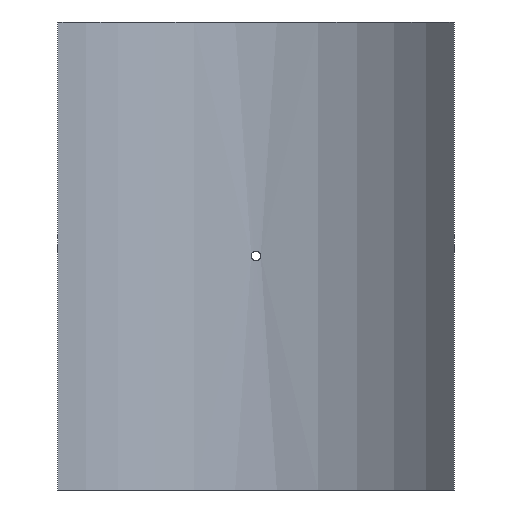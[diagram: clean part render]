
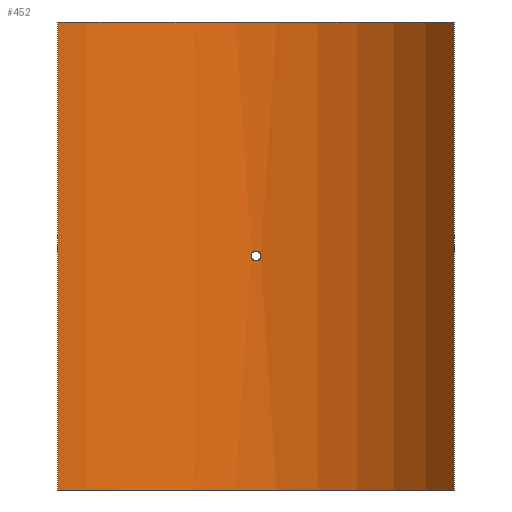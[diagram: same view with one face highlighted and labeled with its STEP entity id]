
A CAD part, front view. The second image highlights one B-rep face of the part: STEP entity #452.
In plain terms, the highlighted cylindrical face has radius 250 mm (diameter 500 mm), a partial arc.
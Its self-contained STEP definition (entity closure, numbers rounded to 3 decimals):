
#19=B_SPLINE_CURVE_WITH_KNOTS('',3,(#788,#789,#790,#791,#792,#793,#794,
#795,#796,#797,#798,#799,#800,#801,#802,#803,#804,#805,#806,#807,#808,#809,
#810,#811,#812,#813,#814,#815,#816,#817,#818,#819,#820,#821),
 .UNSPECIFIED.,.T.,.F.,(4,2,2,2,2,2,2,2,2,2,2,2,2,2,2,2,4),(0.,0.181,
0.362,0.542,0.723,0.904,
1.085,1.266,1.447,1.627,1.808,
1.989,2.17,2.351,2.531,2.712,
2.893),.UNSPECIFIED.);
#43=LINE('',#1065,#62);
#44=LINE('',#1068,#63);
#62=VECTOR('',#661,10.);
#63=VECTOR('',#664,10.);
#76=CYLINDRICAL_SURFACE('',#530,250.);
#88=FACE_BOUND('',#167,.T.);
#127=FACE_OUTER_BOUND('',#166,.T.);
#166=EDGE_LOOP('',(#405,#406,#407,#408));
#167=EDGE_LOOP('',(#409));
#201=CIRCLE('',#529,250.);
#202=CIRCLE('',#531,250.);
#219=VERTEX_POINT('',#786);
#242=VERTEX_POINT('',#1058);
#243=VERTEX_POINT('',#1060);
#244=VERTEX_POINT('',#1064);
#245=VERTEX_POINT('',#1066);
#267=EDGE_CURVE('',#219,#219,#19,.T.);
#299=EDGE_CURVE('',#242,#243,#201,.T.);
#301=EDGE_CURVE('',#244,#242,#43,.T.);
#302=EDGE_CURVE('',#245,#244,#202,.T.);
#303=EDGE_CURVE('',#245,#243,#44,.T.);
#405=ORIENTED_EDGE('',*,*,#301,.F.);
#406=ORIENTED_EDGE('',*,*,#302,.F.);
#407=ORIENTED_EDGE('',*,*,#303,.T.);
#408=ORIENTED_EDGE('',*,*,#299,.F.);
#409=ORIENTED_EDGE('',*,*,#267,.T.);
#452=ADVANCED_FACE('',(#127,#88),#76,.F.);
#529=AXIS2_PLACEMENT_3D('',#1061,#656,#657);
#530=AXIS2_PLACEMENT_3D('',#1063,#659,#660);
#531=AXIS2_PLACEMENT_3D('',#1067,#662,#663);
#656=DIRECTION('center_axis',(0.,0.,1.));
#657=DIRECTION('ref_axis',(0.796,0.605,0.));
#659=DIRECTION('center_axis',(0.,0.,1.));
#660=DIRECTION('ref_axis',(0.796,0.605,0.));
#661=DIRECTION('',(0.,0.,-1.));
#662=DIRECTION('center_axis',(0.,0.,-1.));
#663=DIRECTION('ref_axis',(0.796,0.605,0.));
#664=DIRECTION('',(0.,0.,-1.));
#786=CARTESIAN_POINT('',(4.8,249.954,0.));
#788=CARTESIAN_POINT('Ctrl Pts',(4.8,249.954,0.));
#789=CARTESIAN_POINT('Ctrl Pts',(4.8,249.954,-0.603));
#790=CARTESIAN_POINT('Ctrl Pts',(4.68,249.956,-1.246));
#791=CARTESIAN_POINT('Ctrl Pts',(4.19,249.965,-2.428));
#792=CARTESIAN_POINT('Ctrl Pts',(3.82,249.971,-2.968));
#793=CARTESIAN_POINT('Ctrl Pts',(2.968,249.983,-3.82));
#794=CARTESIAN_POINT('Ctrl Pts',(2.428,249.989,-4.19));
#795=CARTESIAN_POINT('Ctrl Pts',(1.246,249.998,-4.68));
#796=CARTESIAN_POINT('Ctrl Pts',(0.603,250.,-4.8));
#797=CARTESIAN_POINT('Ctrl Pts',(-0.603,250.,-4.8));
#798=CARTESIAN_POINT('Ctrl Pts',(-1.246,249.998,-4.68));
#799=CARTESIAN_POINT('Ctrl Pts',(-2.428,249.989,-4.19));
#800=CARTESIAN_POINT('Ctrl Pts',(-2.968,249.983,-3.82));
#801=CARTESIAN_POINT('Ctrl Pts',(-3.82,249.971,-2.968));
#802=CARTESIAN_POINT('Ctrl Pts',(-4.19,249.965,-2.428));
#803=CARTESIAN_POINT('Ctrl Pts',(-4.68,249.956,-1.246));
#804=CARTESIAN_POINT('Ctrl Pts',(-4.8,249.954,-0.603));
#805=CARTESIAN_POINT('Ctrl Pts',(-4.8,249.954,0.603));
#806=CARTESIAN_POINT('Ctrl Pts',(-4.68,249.956,1.246));
#807=CARTESIAN_POINT('Ctrl Pts',(-4.19,249.965,2.428));
#808=CARTESIAN_POINT('Ctrl Pts',(-3.82,249.971,2.968));
#809=CARTESIAN_POINT('Ctrl Pts',(-2.968,249.983,3.82));
#810=CARTESIAN_POINT('Ctrl Pts',(-2.428,249.989,4.19));
#811=CARTESIAN_POINT('Ctrl Pts',(-1.246,249.998,4.68));
#812=CARTESIAN_POINT('Ctrl Pts',(-0.603,250.,4.8));
#813=CARTESIAN_POINT('Ctrl Pts',(0.603,250.,4.8));
#814=CARTESIAN_POINT('Ctrl Pts',(1.246,249.998,4.68));
#815=CARTESIAN_POINT('Ctrl Pts',(2.428,249.989,4.19));
#816=CARTESIAN_POINT('Ctrl Pts',(2.968,249.983,3.82));
#817=CARTESIAN_POINT('Ctrl Pts',(3.82,249.971,2.968));
#818=CARTESIAN_POINT('Ctrl Pts',(4.19,249.965,2.428));
#819=CARTESIAN_POINT('Ctrl Pts',(4.68,249.956,1.246));
#820=CARTESIAN_POINT('Ctrl Pts',(4.8,249.954,0.603));
#821=CARTESIAN_POINT('Ctrl Pts',(4.8,249.954,0.));
#1058=CARTESIAN_POINT('',(199.,151.324,-235.));
#1060=CARTESIAN_POINT('',(-199.,151.324,-235.));
#1061=CARTESIAN_POINT('Origin',(0.,0.,
-235.));
#1063=CARTESIAN_POINT('Origin',(0.,0.,
0.));
#1064=CARTESIAN_POINT('',(199.,151.324,235.));
#1065=CARTESIAN_POINT('',(199.,151.324,0.));
#1066=CARTESIAN_POINT('',(-199.,151.324,235.));
#1067=CARTESIAN_POINT('Origin',(0.,0.,
235.));
#1068=CARTESIAN_POINT('',(-199.,151.324,0.));
